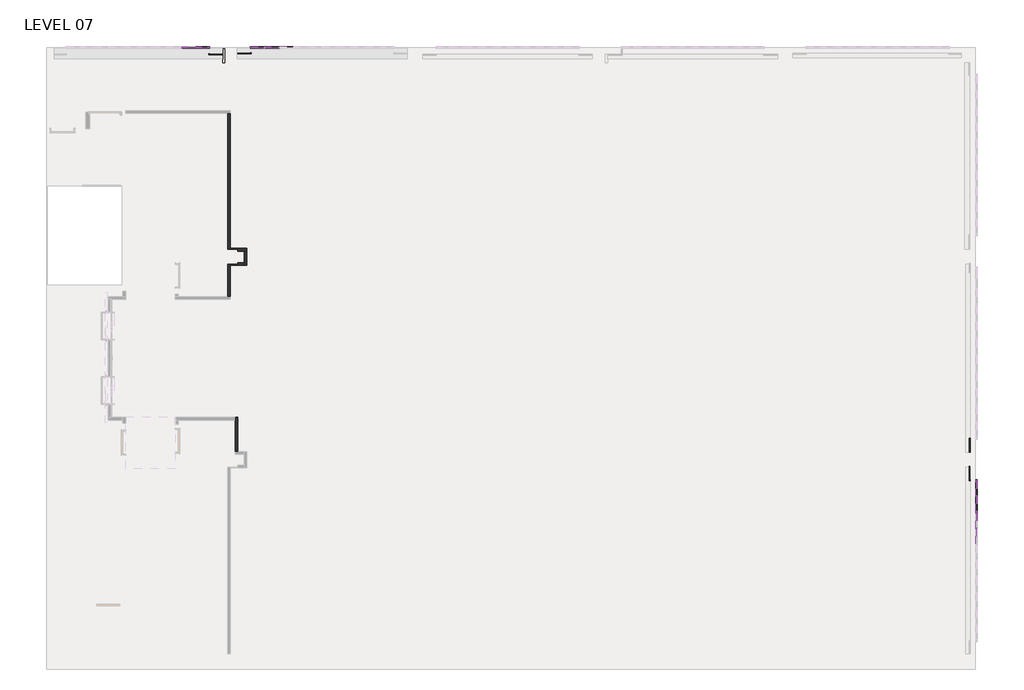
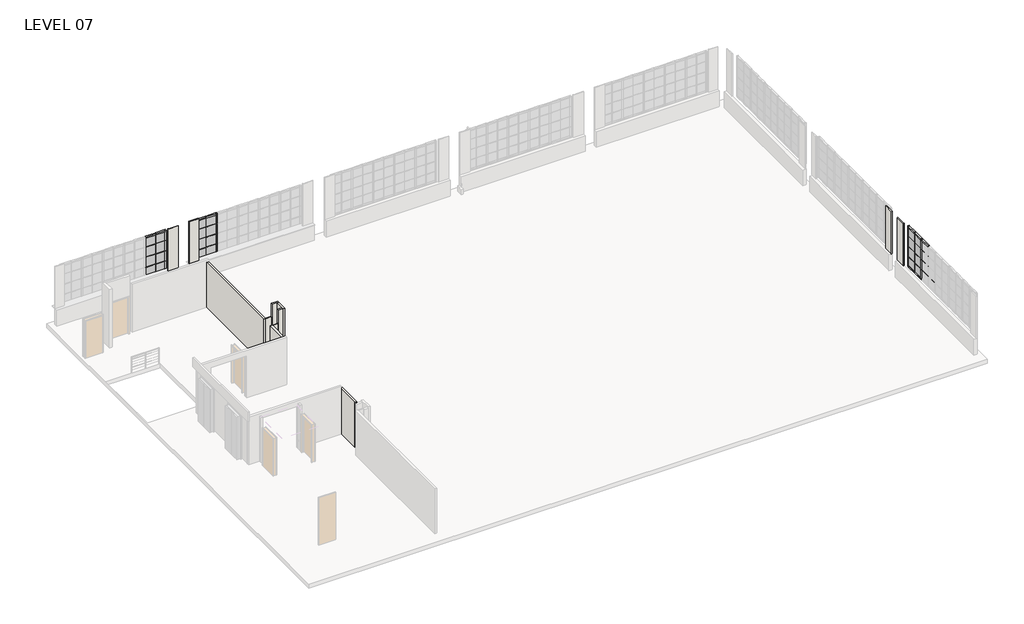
# One storey, part 8 of 15: 67 members, 24 plates, 16 walls.
"""IFC4 building model written with IfcOpenShell, lengths in millimetres."""

from ifc_helpers import new_model, si_unit, frame, origin, place, context, project, spatial, polyline, outline, extrude, faceted_brep, transform, mapped, element, save
from components import member_78bb2ef1, member_bfca4c7d, member_0337d645, member_d9fe2114, member_fd592df6, member_378e0c06, member_17eb62f4, member_d1b01063, member_a415275a, member_ba51e770, member_6e5aab5d, member_bacafba3, member_a6d649dc, system_panel_glazed_fe6fc7be, system_panel_glazed_a8cc2c5f, system_panel_glazed_92f702fb, system_panel_glazed_d94367f6, system_panel_glazed_84a10c8e, system_panel_glazed_44697018, system_panel_glazed_99b9b709, system_panel_glazed_bf1454fd

model = new_model("IFC4")

# Units and contexts
model_context = context("Model", 3, world=origin())
ifc_project = project(units=[si_unit("LENGTHUNIT", "METRE", prefix="MILLI")], contexts=[model_context])

# Site, building, storey
site = spatial("IfcSite", under=ifc_project)
building = spatial("IfcBuilding", under=site)
storey = spatial("IfcBuildingStorey", under=building, Name="LEVEL 07", Elevation=20802.6)

# Members
placement = place(None, origin())
member_shape = member_78bb2ef1(model_context)
element("IfcMember", 1, ObjectType="Rectangular Mullion : 1\" x 1\" - Butt Joint", at=placement, inside=storey, context=model_context, shape_type="MappedRepresentation", body=[
    mapped(member_shape, transform((-445.6849596, -19536.0372314, 23342.6), x_axis=(0.0, 1.0, 0.0), y_axis=(1.0, 0.0, 0.0), z_axis=(0.0, 0.0, -1.0))),
])
element("IfcMember", 2, ObjectType="Rectangular Mullion : 1\" x 1\" - Butt Joint", at=placement, inside=storey, context=model_context, shape_type="MappedRepresentation", body=[
    mapped(member_shape, transform((-445.6849596, -18245.7172314, 23342.6), x_axis=(0.0, 1.0, 0.0), y_axis=(1.0, 0.0, 0.0), z_axis=(0.0, 0.0, -1.0))),
])
element("IfcMember", 3, ObjectType="Rectangular Mullion : 1\" x 1\" - Butt Joint", at=placement, inside=storey, context=model_context, shape_type="MappedRepresentation", body=[
    mapped(member_shape, transform((-445.6849596, -19536.0372314, 22174.2), x_axis=(0.0, 1.0, 0.0), y_axis=(1.0, 0.0, 0.0), z_axis=(0.0, 0.0, -1.0))),
])
element("IfcMember", 4, ObjectType="Rectangular Mullion : 1\" x 1\" - Butt Joint", at=placement, inside=storey, context=model_context, shape_type="MappedRepresentation", body=[
    mapped(member_shape, transform((-445.6849596, -19536.0372314, 22758.4), x_axis=(0.0, 1.0, 0.0), y_axis=(1.0, 0.0, 0.0), z_axis=(0.0, 0.0, -1.0))),
])
element("IfcMember", 5, ObjectType="Rectangular Mullion : 1\" x 1\" - Butt Joint", at=placement, inside=storey, context=model_context, shape_type="MappedRepresentation", body=[
    mapped(member_shape, transform((-445.6849596, -18245.7172314, 22174.2), x_axis=(0.0, 1.0, 0.0), y_axis=(1.0, 0.0, 0.0), z_axis=(0.0, 0.0, -1.0))),
])
element("IfcMember", 6, ObjectType="Rectangular Mullion : 1\" x 1\" - Butt Joint", at=placement, inside=storey, context=model_context, shape_type="MappedRepresentation", body=[
    mapped(member_shape, transform((-445.6849596, -18245.7172314, 22758.4), x_axis=(0.0, 1.0, 0.0), y_axis=(1.0, 0.0, 0.0), z_axis=(0.0, 0.0, -1.0))),
])
element("IfcMember", 7, ObjectType="Rectangular Mullion : 1\" x 1\" - Butt Joint", at=placement, inside=storey, context=model_context, shape_type="MappedRepresentation", body=[
    mapped(member_shape, transform((-445.6849596, -19536.0372314, 21590.0), x_axis=(0.0, 1.0, 0.0), y_axis=(1.0, 0.0, 0.0), z_axis=(0.0, 0.0, -1.0))),
])
element("IfcMember", 8, ObjectType="Rectangular Mullion : 1\" x 1\" - Butt Joint", at=placement, inside=storey, context=model_context, shape_type="MappedRepresentation", body=[
    mapped(member_shape, transform((-445.6849596, -18245.7172314, 21590.0), x_axis=(0.0, 1.0, 0.0), y_axis=(1.0, 0.0, 0.0), z_axis=(0.0, 0.0, -1.0))),
])
member_2_shape = member_bfca4c7d(model_context)
element("IfcMember", 9, ObjectType="Rectangular Mullion : 1\" x 1\" - Butt Joint", at=placement, inside=storey, context=model_context, shape_type="MappedRepresentation", body=[
    mapped(member_2_shape, transform((-445.6849596, -18928.9772314, 23342.6), x_axis=(0.0, 0.0, 1.0), y_axis=(1.0, 0.0, 0.0), z_axis=(0.0, 1.0, 0.0))),
])
element("IfcMember", 10, ObjectType="Rectangular Mullion : 1\" x 1\" - Butt Joint", at=placement, inside=storey, context=model_context, shape_type="MappedRepresentation", body=[
    mapped(member_2_shape, transform((-445.6849596, -18258.4172314, 23342.6), x_axis=(0.0, 0.0, 1.0), y_axis=(1.0, 0.0, 0.0), z_axis=(0.0, 1.0, 0.0))),
])
element("IfcMember", 11, ObjectType="Rectangular Mullion : 1\" x 1\" - Butt Joint", at=placement, inside=storey, context=model_context, shape_type="MappedRepresentation", body=[
    mapped(member_2_shape, transform((-445.6849596, -18928.9772314, 22758.4), x_axis=(0.0, 0.0, 1.0), y_axis=(1.0, 0.0, 0.0), z_axis=(0.0, 1.0, 0.0))),
])
element("IfcMember", 12, ObjectType="Rectangular Mullion : 1\" x 1\" - Butt Joint", at=placement, inside=storey, context=model_context, shape_type="MappedRepresentation", body=[
    mapped(member_2_shape, transform((-445.6849596, -18258.4172314, 22758.4), x_axis=(0.0, 0.0, 1.0), y_axis=(1.0, 0.0, 0.0), z_axis=(0.0, 1.0, 0.0))),
])
element("IfcMember", 13, ObjectType="Rectangular Mullion : 1\" x 1\" - Butt Joint", at=placement, inside=storey, context=model_context, shape_type="MappedRepresentation", body=[
    mapped(member_2_shape, transform((-445.6849596, -18928.9772314, 22174.2), x_axis=(0.0, 0.0, 1.0), y_axis=(1.0, 0.0, 0.0), z_axis=(0.0, 1.0, 0.0))),
])
element("IfcMember", 14, ObjectType="Rectangular Mullion : 1\" x 1\" - Butt Joint", at=placement, inside=storey, context=model_context, shape_type="MappedRepresentation", body=[
    mapped(member_2_shape, transform((-445.6849596, -18258.4172314, 22174.2), x_axis=(0.0, 0.0, 1.0), y_axis=(1.0, 0.0, 0.0), z_axis=(0.0, 1.0, 0.0))),
])
element("IfcMember", 15, ObjectType="Rectangular Mullion : 1\" x 1\" - Butt Joint", at=placement, inside=storey, context=model_context, shape_type="MappedRepresentation", body=[
    mapped(member_2_shape, transform((-445.6849596, -19548.7372314, 22174.2), x_axis=(0.0, 0.0, 1.0), y_axis=(1.0, 0.0, 0.0), z_axis=(0.0, 1.0, 0.0))),
])
member_3_shape = member_0337d645(model_context)
element("IfcMember", 16, ObjectType="Rectangular Mullion : 1\" x 1\" - Butt Joint", at=placement, inside=storey, context=model_context, shape_type="MappedRepresentation", body=[
    mapped(member_3_shape, transform((-445.6849596, -17676.7572314, 23342.6), x_axis=(0.0, 0.0, 1.0), y_axis=(1.0, 0.0, 0.0), z_axis=(0.0, 1.0, 0.0))),
])
element("IfcMember", 17, ObjectType="Rectangular Mullion : 1\" x 1\" - Butt Joint", at=placement, inside=storey, context=model_context, shape_type="MappedRepresentation", body=[
    mapped(member_3_shape, transform((-445.6849596, -17676.7572314, 22758.4), x_axis=(0.0, 0.0, 1.0), y_axis=(1.0, 0.0, 0.0), z_axis=(0.0, 1.0, 0.0))),
])
element("IfcMember", 18, ObjectType="Rectangular Mullion : 1\" x 1\" - Butt Joint", at=placement, inside=storey, context=model_context, shape_type="MappedRepresentation", body=[
    mapped(member_3_shape, transform((-445.6849596, -17676.7572314, 22174.2), x_axis=(0.0, 0.0, 1.0), y_axis=(1.0, 0.0, 0.0), z_axis=(0.0, 1.0, 0.0))),
])
member_4_shape = member_d9fe2114(model_context)
element("IfcMember", 19, ObjectType="Rectangular Mullion : 1\" x 1\" - Butt Joint", at=placement, inside=storey, context=model_context, shape_type="MappedRepresentation", body=[
    mapped(member_4_shape, transform((-28228.7321217, -412.75, 23342.6), x_axis=(0.0, 0.0, 1.0), y_axis=(0.0, -1.0, 0.0), z_axis=(1.0, 0.0, 0.0))),
])
element("IfcMember", 20, ObjectType="Rectangular Mullion : 1\" x 1\" - Butt Joint", at=placement, inside=storey, context=model_context, shape_type="MappedRepresentation", body=[
    mapped(member_4_shape, transform((-28228.7321217, -412.75, 22758.4), x_axis=(0.0, 0.0, 1.0), y_axis=(0.0, -1.0, 0.0), z_axis=(1.0, 0.0, 0.0))),
])
element("IfcMember", 21, ObjectType="Rectangular Mullion : 1\" x 1\" - Butt Joint", at=placement, inside=storey, context=model_context, shape_type="MappedRepresentation", body=[
    mapped(member_4_shape, transform((-28228.7321217, -412.75, 22174.2), x_axis=(0.0, 0.0, 1.0), y_axis=(0.0, -1.0, 0.0), z_axis=(1.0, 0.0, 0.0))),
])
element("IfcMember", 22, ObjectType="Rectangular Mullion : 1\" x 1\" - Butt Joint", at=placement, inside=storey, context=model_context, shape_type="MappedRepresentation", body=[
    mapped(member_4_shape, transform((-31532.5110374, -412.75, 23342.6), x_axis=(0.0, 0.0, 1.0), y_axis=(0.0, -1.0, 0.0), z_axis=(1.0, 0.0, 0.0))),
])
element("IfcMember", 23, ObjectType="Rectangular Mullion : 1\" x 1\" - Butt Joint", at=placement, inside=storey, context=model_context, shape_type="MappedRepresentation", body=[
    mapped(member_4_shape, transform((-31532.5110374, -412.75, 22758.4), x_axis=(0.0, 0.0, 1.0), y_axis=(0.0, -1.0, 0.0), z_axis=(1.0, 0.0, 0.0))),
])
element("IfcMember", 24, ObjectType="Rectangular Mullion : 1\" x 1\" - Butt Joint", at=placement, inside=storey, context=model_context, shape_type="MappedRepresentation", body=[
    mapped(member_4_shape, transform((-31532.5110374, -412.75, 22174.2), x_axis=(0.0, 0.0, 1.0), y_axis=(0.0, -1.0, 0.0), z_axis=(1.0, 0.0, 0.0))),
])
member_5_shape = member_fd592df6(model_context)
element("IfcMember", 25, ObjectType="Rectangular Mullion : 1\" x 1\" - Butt Joint", at=placement, inside=storey, context=model_context, shape_type="MappedRepresentation", body=[
    mapped(member_5_shape, transform((-28777.3721217, -412.75, 23342.6), x_axis=(0.0, 0.0, 1.0), y_axis=(0.0, -1.0, 0.0), z_axis=(1.0, 0.0, 0.0))),
])
element("IfcMember", 26, ObjectType="Rectangular Mullion : 1\" x 1\" - Butt Joint", at=placement, inside=storey, context=model_context, shape_type="MappedRepresentation", body=[
    mapped(member_5_shape, transform((-28777.3721217, -412.75, 22758.4), x_axis=(0.0, 0.0, 1.0), y_axis=(0.0, -1.0, 0.0), z_axis=(1.0, 0.0, 0.0))),
])
element("IfcMember", 27, ObjectType="Rectangular Mullion : 1\" x 1\" - Butt Joint", at=placement, inside=storey, context=model_context, shape_type="MappedRepresentation", body=[
    mapped(member_5_shape, transform((-28777.3721217, -412.75, 22174.2), x_axis=(0.0, 0.0, 1.0), y_axis=(0.0, -1.0, 0.0), z_axis=(1.0, 0.0, 0.0))),
])
element("IfcMember", 28, ObjectType="Rectangular Mullion : 1\" x 1\" - Butt Joint", at=placement, inside=storey, context=model_context, shape_type="MappedRepresentation", body=[
    mapped(member_5_shape, transform((-31021.9710374, -412.75, 23342.6), x_axis=(0.0, 0.0, 1.0), y_axis=(0.0, -1.0, 0.0), z_axis=(1.0, 0.0, 0.0))),
])
element("IfcMember", 29, ObjectType="Rectangular Mullion : 1\" x 1\" - Butt Joint", at=placement, inside=storey, context=model_context, shape_type="MappedRepresentation", body=[
    mapped(member_5_shape, transform((-31021.9710374, -412.75, 22758.4), x_axis=(0.0, 0.0, 1.0), y_axis=(0.0, -1.0, 0.0), z_axis=(1.0, 0.0, 0.0))),
])
element("IfcMember", 30, ObjectType="Rectangular Mullion : 1\" x 1\" - Butt Joint", at=placement, inside=storey, context=model_context, shape_type="MappedRepresentation", body=[
    mapped(member_5_shape, transform((-31021.9710374, -412.75, 22174.2), x_axis=(0.0, 0.0, 1.0), y_axis=(0.0, -1.0, 0.0), z_axis=(1.0, 0.0, 0.0))),
])
element("IfcMember", 31, ObjectType="Rectangular Mullion : 1\" x 1\" - Butt Joint", at=placement, inside=storey, context=model_context, shape_type="MappedRepresentation", body=[
    mapped(member_shape, transform((-31519.8110374, -412.75, 23342.6), x_axis=(1.0, 0.0, 0.0), y_axis=(0.0, -1.0, 0.0), z_axis=(0.0, 0.0, -1.0))),
])
element("IfcMember", 32, ObjectType="Rectangular Mullion : 1\" x 1\" - Butt Joint", at=placement, inside=storey, context=model_context, shape_type="MappedRepresentation", body=[
    mapped(member_shape, transform((-31519.8110374, -412.75, 22174.2), x_axis=(1.0, 0.0, 0.0), y_axis=(0.0, -1.0, 0.0), z_axis=(0.0, 0.0, -1.0))),
])
element("IfcMember", 33, ObjectType="Rectangular Mullion : 1\" x 1\" - Butt Joint", at=placement, inside=storey, context=model_context, shape_type="MappedRepresentation", body=[
    mapped(member_shape, transform((-31519.8110374, -412.75, 22758.4), x_axis=(1.0, 0.0, 0.0), y_axis=(0.0, -1.0, 0.0), z_axis=(0.0, 0.0, -1.0))),
])
element("IfcMember", 34, ObjectType="Rectangular Mullion : 1\" x 1\" - Butt Joint", at=placement, inside=storey, context=model_context, shape_type="MappedRepresentation", body=[
    mapped(member_shape, transform((-31519.8110374, -412.75, 21590.0), x_axis=(1.0, 0.0, 0.0), y_axis=(0.0, -1.0, 0.0), z_axis=(0.0, 0.0, -1.0))),
])
member_6_shape = member_378e0c06(model_context)
element("IfcMember", 35, ObjectType="Rectangular Mullion : 3\" x 3\" Window Jamb", at=placement, inside=storey, context=model_context, shape_type="MappedRepresentation", body=[
    mapped(member_6_shape, transform((-445.6849596, -18890.8772314, 23342.6), x_axis=(0.0, 1.0, 0.0), y_axis=(1.0, 0.0, 0.0), z_axis=(0.0, 0.0, -1.0))),
])
member_7_shape = member_17eb62f4(model_context)
element("IfcMember", 36, ObjectType="Rectangular Mullion : 3\" x 3\" Window Jamb", at=placement, inside=storey, context=model_context, shape_type="MappedRepresentation", body=[
    mapped(member_7_shape, transform((-445.6849596, -17600.5572314, 23342.6), x_axis=(0.0, 1.0, 0.0), y_axis=(1.0, 0.0, 0.0), z_axis=(0.0, 0.0, -1.0))),
])
element("IfcMember", 37, ObjectType="Rectangular Mullion : 3\" x 3\" Window Jamb", at=placement, inside=storey, context=model_context, shape_type="MappedRepresentation", body=[
    mapped(member_6_shape, transform((-445.6849596, -18890.8772314, 22174.2), x_axis=(0.0, 1.0, 0.0), y_axis=(1.0, 0.0, 0.0), z_axis=(0.0, 0.0, -1.0))),
])
element("IfcMember", 38, ObjectType="Rectangular Mullion : 3\" x 3\" Window Jamb", at=placement, inside=storey, context=model_context, shape_type="MappedRepresentation", body=[
    mapped(member_6_shape, transform((-445.6849596, -18890.8772314, 22758.4), x_axis=(0.0, 1.0, 0.0), y_axis=(1.0, 0.0, 0.0), z_axis=(0.0, 0.0, -1.0))),
])
element("IfcMember", 39, ObjectType="Rectangular Mullion : 3\" x 3\" Window Jamb", at=placement, inside=storey, context=model_context, shape_type="MappedRepresentation", body=[
    mapped(member_7_shape, transform((-445.6849596, -17600.5572314, 22174.2), x_axis=(0.0, 1.0, 0.0), y_axis=(1.0, 0.0, 0.0), z_axis=(0.0, 0.0, -1.0))),
])
element("IfcMember", 40, ObjectType="Rectangular Mullion : 3\" x 3\" Window Jamb", at=placement, inside=storey, context=model_context, shape_type="MappedRepresentation", body=[
    mapped(member_7_shape, transform((-445.6849596, -17600.5572314, 22758.4), x_axis=(0.0, 1.0, 0.0), y_axis=(1.0, 0.0, 0.0), z_axis=(0.0, 0.0, -1.0))),
])
element("IfcMember", 41, ObjectType="Rectangular Mullion : 3\" x 3\" Window Jamb", at=placement, inside=storey, context=model_context, shape_type="MappedRepresentation", body=[
    mapped(member_6_shape, transform((-445.6849596, -18890.8772314, 21590.0), x_axis=(0.0, 1.0, 0.0), y_axis=(1.0, 0.0, 0.0), z_axis=(0.0, 0.0, -1.0))),
])
element("IfcMember", 42, ObjectType="Rectangular Mullion : 3\" x 3\" Window Jamb", at=placement, inside=storey, context=model_context, shape_type="MappedRepresentation", body=[
    mapped(member_7_shape, transform((-445.6849596, -17600.5572314, 21590.0), x_axis=(0.0, 1.0, 0.0), y_axis=(1.0, 0.0, 0.0), z_axis=(0.0, 0.0, -1.0))),
])
member_8_shape = member_d1b01063(model_context)
element("IfcMember", 43, ObjectType="Rectangular Mullion : 3\" x 3\" Window Jamb", at=placement, inside=storey, context=model_context, shape_type="MappedRepresentation", body=[
    mapped(member_8_shape, transform((-445.6849596, -17676.7572314, 23926.8), x_axis=(0.0, 0.0, 1.0), y_axis=(1.0, 0.0, 0.0), z_axis=(0.0, 1.0, 0.0))),
])
member_9_shape = member_a415275a(model_context)
element("IfcMember", 44, ObjectType="Rectangular Mullion : 3\" x 3\" Window Jamb", at=placement, inside=storey, context=model_context, shape_type="MappedRepresentation", body=[
    mapped(member_9_shape, transform((-445.6849596, -18258.4172314, 23926.8), x_axis=(0.0, 0.0, 1.0), y_axis=(1.0, 0.0, 0.0), z_axis=(0.0, 1.0, 0.0))),
])
element("IfcMember", 45, ObjectType="Rectangular Mullion : 3\" x 3\" Window Jamb", at=placement, inside=storey, context=model_context, shape_type="MappedRepresentation", body=[
    mapped(member_9_shape, transform((-445.6849596, -18928.9772314, 23926.8), x_axis=(0.0, 0.0, 1.0), y_axis=(1.0, 0.0, 0.0), z_axis=(0.0, 1.0, 0.0))),
])
element("IfcMember", 46, ObjectType="Rectangular Mullion : 3\" x 3\" Window Jamb", at=placement, inside=storey, context=model_context, shape_type="MappedRepresentation", body=[
    mapped(member_9_shape, transform((-445.6849596, -18852.7772314, 21590.0), x_axis=(0.0, 0.0, -1.0), y_axis=(1.0, 0.0, 0.0), z_axis=(0.0, -1.0, 0.0))),
])
element("IfcMember", 47, ObjectType="Rectangular Mullion : 3\" x 3\" Window Jamb", at=placement, inside=storey, context=model_context, shape_type="MappedRepresentation", body=[
    mapped(member_8_shape, transform((-445.6849596, -18233.0172314, 21590.0), x_axis=(0.0, 0.0, -1.0), y_axis=(1.0, 0.0, 0.0), z_axis=(0.0, -1.0, 0.0))),
])
member_10_shape = member_ba51e770(model_context)
element("IfcMember", 48, ObjectType="Rectangular Mullion : 3\" x 3\" Window Jamb", at=placement, inside=storey, context=model_context, shape_type="MappedRepresentation", body=[
    mapped(member_10_shape, transform((-28777.3721217, -412.75, 23926.8), x_axis=(0.0, 0.0, 1.0), y_axis=(0.0, -1.0, 0.0), z_axis=(1.0, 0.0, 0.0))),
])
element("IfcMember", 49, ObjectType="Rectangular Mullion : 3\" x 3\" Window Jamb", at=placement, inside=storey, context=model_context, shape_type="MappedRepresentation", body=[
    mapped(member_10_shape, transform((-31021.9710374, -412.75, 23926.8), x_axis=(0.0, 0.0, 1.0), y_axis=(0.0, -1.0, 0.0), z_axis=(1.0, 0.0, 0.0))),
])
member_11_shape = member_6e5aab5d(model_context)
element("IfcMember", 50, ObjectType="Rectangular Mullion : 3\" x 3\" Window Jamb", at=placement, inside=storey, context=model_context, shape_type="MappedRepresentation", body=[
    mapped(member_11_shape, transform((-28228.7321217, -412.75, 23926.8), x_axis=(0.0, 0.0, 1.0), y_axis=(0.0, -1.0, 0.0), z_axis=(1.0, 0.0, 0.0))),
])
element("IfcMember", 51, ObjectType="Rectangular Mullion : 3\" x 3\" Window Jamb", at=placement, inside=storey, context=model_context, shape_type="MappedRepresentation", body=[
    mapped(member_11_shape, transform((-31532.5110374, -412.75, 23926.8), x_axis=(0.0, 0.0, 1.0), y_axis=(0.0, -1.0, 0.0), z_axis=(1.0, 0.0, 0.0))),
])
element("IfcMember", 52, ObjectType="Rectangular Mullion : 3\" x 3\" Window Jamb", at=placement, inside=storey, context=model_context, shape_type="MappedRepresentation", body=[
    mapped(member_11_shape, transform((-28751.9721217, -412.75, 21590.0), x_axis=(0.0, 0.0, -1.0), y_axis=(0.0, -1.0, 0.0), z_axis=(-1.0, 0.0, 0.0))),
])
element("IfcMember", 53, ObjectType="Rectangular Mullion : 3\" x 3\" Window Jamb", at=placement, inside=storey, context=model_context, shape_type="MappedRepresentation", body=[
    mapped(member_11_shape, transform((-28152.5321217, -412.75, 21590.0), x_axis=(0.0, 0.0, -1.0), y_axis=(0.0, -1.0, 0.0), z_axis=(-1.0, 0.0, 0.0))),
])
element("IfcMember", 54, ObjectType="Rectangular Mullion : 3\" x 3\" Window Jamb", at=placement, inside=storey, context=model_context, shape_type="MappedRepresentation", body=[
    mapped(member_10_shape, transform((-29262.5121217, -412.75, 21590.0), x_axis=(0.0, 0.0, -1.0), y_axis=(0.0, -1.0, 0.0), z_axis=(-1.0, 0.0, 0.0))),
])
element("IfcMember", 55, ObjectType="Rectangular Mullion : 3\" x 3\" Window Jamb", at=placement, inside=storey, context=model_context, shape_type="MappedRepresentation", body=[
    mapped(member_10_shape, transform((-31507.1110374, -412.75, 21590.0), x_axis=(0.0, 0.0, -1.0), y_axis=(0.0, -1.0, 0.0), z_axis=(-1.0, 0.0, 0.0))),
])
member_12_shape = member_bacafba3(model_context)
element("IfcMember", 56, ObjectType="Rectangular Mullion : 3\" x 3\" Window Jamb", at=placement, inside=storey, context=model_context, shape_type="MappedRepresentation", body=[
    mapped(member_12_shape, transform((-28190.6321217, -412.75, 23342.6), x_axis=(1.0, 0.0, 0.0), y_axis=(0.0, -1.0, 0.0), z_axis=(0.0, 0.0, -1.0))),
])
element("IfcMember", 57, ObjectType="Rectangular Mullion : 3\" x 3\" Window Jamb", at=placement, inside=storey, context=model_context, shape_type="MappedRepresentation", body=[
    mapped(member_12_shape, transform((-28190.6321217, -412.75, 22174.2), x_axis=(1.0, 0.0, 0.0), y_axis=(0.0, -1.0, 0.0), z_axis=(0.0, 0.0, -1.0))),
])
element("IfcMember", 58, ObjectType="Rectangular Mullion : 3\" x 3\" Window Jamb", at=placement, inside=storey, context=model_context, shape_type="MappedRepresentation", body=[
    mapped(member_12_shape, transform((-28190.6321217, -412.75, 22758.4), x_axis=(1.0, 0.0, 0.0), y_axis=(0.0, -1.0, 0.0), z_axis=(0.0, 0.0, -1.0))),
])
element("IfcMember", 59, ObjectType="Rectangular Mullion : 3\" x 3\" Window Jamb", at=placement, inside=storey, context=model_context, shape_type="MappedRepresentation", body=[
    mapped(member_12_shape, transform((-28190.6321217, -412.75, 21590.0), x_axis=(1.0, 0.0, 0.0), y_axis=(0.0, -1.0, 0.0), z_axis=(0.0, 0.0, -1.0))),
])
member_13_shape = member_a6d649dc(model_context)
element("IfcMember", 60, ObjectType="Rectangular Mullion : 3\" x 3\" Window Jamb", at=placement, inside=storey, context=model_context, shape_type="MappedRepresentation", body=[
    mapped(member_13_shape, transform((-30945.7710374, -412.75, 23342.6), x_axis=(1.0, 0.0, 0.0), y_axis=(0.0, -1.0, 0.0), z_axis=(0.0, 0.0, -1.0))),
])
element("IfcMember", 61, ObjectType="Rectangular Mullion : 3\" x 3\" Window Jamb", at=placement, inside=storey, context=model_context, shape_type="MappedRepresentation", body=[
    mapped(member_13_shape, transform((-30945.7710374, -412.75, 22174.2), x_axis=(1.0, 0.0, 0.0), y_axis=(0.0, -1.0, 0.0), z_axis=(0.0, 0.0, -1.0))),
])
element("IfcMember", 62, ObjectType="Rectangular Mullion : 3\" x 3\" Window Jamb", at=placement, inside=storey, context=model_context, shape_type="MappedRepresentation", body=[
    mapped(member_13_shape, transform((-30945.7710374, -412.75, 22758.4), x_axis=(1.0, 0.0, 0.0), y_axis=(0.0, -1.0, 0.0), z_axis=(0.0, 0.0, -1.0))),
])
element("IfcMember", 63, ObjectType="Rectangular Mullion : 3\" x 3\" Window Jamb", at=placement, inside=storey, context=model_context, shape_type="MappedRepresentation", body=[
    mapped(member_13_shape, transform((-30945.7710374, -412.75, 21590.0), x_axis=(1.0, 0.0, 0.0), y_axis=(0.0, -1.0, 0.0), z_axis=(0.0, 0.0, -1.0))),
])
element("IfcMember", 64, ObjectType="Rectangular Mullion : 3\" x 3\" Window Jamb", at=placement, inside=storey, context=model_context, shape_type="MappedRepresentation", body=[
    mapped(member_13_shape, transform((-29338.7121217, -412.75, 23342.6), x_axis=(-1.0, 0.0, 0.0), y_axis=(0.0, -1.0, 0.0), z_axis=(0.0, 0.0, 1.0))),
])
element("IfcMember", 65, ObjectType="Rectangular Mullion : 3\" x 3\" Window Jamb", at=placement, inside=storey, context=model_context, shape_type="MappedRepresentation", body=[
    mapped(member_13_shape, transform((-29338.7121217, -412.75, 22758.4), x_axis=(-1.0, 0.0, 0.0), y_axis=(0.0, -1.0, 0.0), z_axis=(0.0, 0.0, 1.0))),
])
element("IfcMember", 66, ObjectType="Rectangular Mullion : 3\" x 3\" Window Jamb", at=placement, inside=storey, context=model_context, shape_type="MappedRepresentation", body=[
    mapped(member_13_shape, transform((-29338.7121217, -412.75, 22174.2), x_axis=(-1.0, 0.0, 0.0), y_axis=(0.0, -1.0, 0.0), z_axis=(0.0, 0.0, 1.0))),
])
element("IfcMember", 67, ObjectType="Rectangular Mullion : 3\" x 3\" Window Jamb", at=placement, inside=storey, context=model_context, shape_type="MappedRepresentation", body=[
    mapped(member_13_shape, transform((-29338.7121217, -412.75, 23926.8), x_axis=(-1.0, 0.0, 0.0), y_axis=(0.0, -1.0, 0.0), z_axis=(0.0, 0.0, 1.0))),
])

# Plates
system_panel_glazed_shape = system_panel_glazed_fe6fc7be(model_context)
element("IfcPlate", 68, ObjectType="System Panel : Glazed", at=placement, inside=storey, context=model_context, shape_type="MappedRepresentation", body=[
    mapped(system_panel_glazed_shape, transform((-445.6849596, -17954.8872314, 21666.2), x_axis=(0.0, 1.0, 0.0), y_axis=(-1.0, 0.0, 0.0), z_axis=(0.0, 0.0, 1.0))),
])
element("IfcPlate", 69, ObjectType="System Panel : Glazed", at=placement, inside=storey, context=model_context, shape_type="MappedRepresentation", body=[
    mapped(system_panel_glazed_shape, transform((-445.6849596, -17954.8872314, 23355.3), x_axis=(0.0, 1.0, 0.0), y_axis=(-1.0, 0.0, 0.0), z_axis=(0.0, 0.0, 1.0))),
])
system_panel_glazed_2_shape = system_panel_glazed_a8cc2c5f(model_context)
element("IfcPlate", 70, ObjectType="System Panel : Glazed", at=placement, inside=storey, context=model_context, shape_type="MappedRepresentation", body=[
    mapped(system_panel_glazed_2_shape, transform((-445.6849596, -18555.5972314, 21666.2), x_axis=(0.0, 1.0, 0.0), y_axis=(-1.0, 0.0, 0.0), z_axis=(0.0, 0.0, 1.0))),
])
element("IfcPlate", 71, ObjectType="System Panel : Glazed", at=placement, inside=storey, context=model_context, shape_type="MappedRepresentation", body=[
    mapped(system_panel_glazed_2_shape, transform((-445.6849596, -18555.5972314, 23355.3), x_axis=(0.0, 1.0, 0.0), y_axis=(-1.0, 0.0, 0.0), z_axis=(0.0, 0.0, 1.0))),
])
system_panel_glazed_3_shape = system_panel_glazed_92f702fb(model_context)
element("IfcPlate", 72, ObjectType="System Panel : Glazed", at=placement, inside=storey, context=model_context, shape_type="MappedRepresentation", body=[
    mapped(system_panel_glazed_3_shape, transform((-445.6849596, -17954.8872314, 22186.9), x_axis=(0.0, 1.0, 0.0), y_axis=(-1.0, 0.0, 0.0), z_axis=(0.0, 0.0, 1.0))),
])
element("IfcPlate", 73, ObjectType="System Panel : Glazed", at=placement, inside=storey, context=model_context, shape_type="MappedRepresentation", body=[
    mapped(system_panel_glazed_3_shape, transform((-445.6849596, -17954.8872314, 22771.1), x_axis=(0.0, 1.0, 0.0), y_axis=(-1.0, 0.0, 0.0), z_axis=(0.0, 0.0, 1.0))),
])
system_panel_glazed_4_shape = system_panel_glazed_d94367f6(model_context)
element("IfcPlate", 74, ObjectType="System Panel : Glazed", at=placement, inside=storey, context=model_context, shape_type="MappedRepresentation", body=[
    mapped(system_panel_glazed_4_shape, transform((-445.6849596, -18555.5972314, 22771.1), x_axis=(0.0, 1.0, 0.0), y_axis=(-1.0, 0.0, 0.0), z_axis=(0.0, 0.0, 1.0))),
])
element("IfcPlate", 75, ObjectType="System Panel : Glazed", at=placement, inside=storey, context=model_context, shape_type="MappedRepresentation", body=[
    mapped(system_panel_glazed_4_shape, transform((-445.6849596, -18555.5972314, 22186.9), x_axis=(0.0, 1.0, 0.0), y_axis=(-1.0, 0.0, 0.0), z_axis=(0.0, 0.0, 1.0))),
])
system_panel_glazed_5_shape = system_panel_glazed_84a10c8e(model_context)
element("IfcPlate", 76, ObjectType="System Panel : Glazed", at=placement, inside=storey, context=model_context, shape_type="MappedRepresentation", body=[
    mapped(system_panel_glazed_5_shape, transform((-29019.9421217, -412.75, 21666.2), x_axis=(1.0, 0.0, 0.0), y_axis=(0.0, 1.0, 0.0), z_axis=(0.0, 0.0, 1.0))),
])
element("IfcPlate", 77, ObjectType="System Panel : Glazed", at=placement, inside=storey, context=model_context, shape_type="MappedRepresentation", body=[
    mapped(system_panel_glazed_5_shape, transform((-29019.9421217, -412.75, 23355.3), x_axis=(1.0, 0.0, 0.0), y_axis=(0.0, 1.0, 0.0), z_axis=(0.0, 0.0, 1.0))),
])
element("IfcPlate", 78, ObjectType="System Panel : Glazed", at=placement, inside=storey, context=model_context, shape_type="MappedRepresentation", body=[
    mapped(system_panel_glazed_5_shape, transform((-31264.5410374, -412.75, 21666.2), x_axis=(1.0, 0.0, 0.0), y_axis=(0.0, 1.0, 0.0), z_axis=(0.0, 0.0, 1.0))),
])
element("IfcPlate", 79, ObjectType="System Panel : Glazed", at=placement, inside=storey, context=model_context, shape_type="MappedRepresentation", body=[
    mapped(system_panel_glazed_5_shape, transform((-31264.5410374, -412.75, 23355.3), x_axis=(1.0, 0.0, 0.0), y_axis=(0.0, 1.0, 0.0), z_axis=(0.0, 0.0, 1.0))),
])
system_panel_glazed_6_shape = system_panel_glazed_44697018(model_context)
element("IfcPlate", 80, ObjectType="System Panel : Glazed", at=placement, inside=storey, context=model_context, shape_type="MappedRepresentation", body=[
    mapped(system_panel_glazed_6_shape, transform((-28490.3521217, -412.75, 21666.2), x_axis=(1.0, 0.0, 0.0), y_axis=(0.0, 1.0, 0.0), z_axis=(0.0, 0.0, 1.0))),
])
element("IfcPlate", 81, ObjectType="System Panel : Glazed", at=placement, inside=storey, context=model_context, shape_type="MappedRepresentation", body=[
    mapped(system_panel_glazed_6_shape, transform((-28490.3521217, -412.75, 23355.3), x_axis=(1.0, 0.0, 0.0), y_axis=(0.0, 1.0, 0.0), z_axis=(0.0, 0.0, 1.0))),
])
element("IfcPlate", 82, ObjectType="System Panel : Glazed", at=placement, inside=storey, context=model_context, shape_type="MappedRepresentation", body=[
    mapped(system_panel_glazed_6_shape, transform((-31794.1310374, -412.75, 21666.2), x_axis=(1.0, 0.0, 0.0), y_axis=(0.0, 1.0, 0.0), z_axis=(0.0, 0.0, 1.0))),
])
element("IfcPlate", 83, ObjectType="System Panel : Glazed", at=placement, inside=storey, context=model_context, shape_type="MappedRepresentation", body=[
    mapped(system_panel_glazed_6_shape, transform((-31794.1310374, -412.75, 23355.3), x_axis=(1.0, 0.0, 0.0), y_axis=(0.0, 1.0, 0.0), z_axis=(0.0, 0.0, 1.0))),
])
system_panel_glazed_7_shape = system_panel_glazed_99b9b709(model_context)
element("IfcPlate", 84, ObjectType="System Panel : Glazed", at=placement, inside=storey, context=model_context, shape_type="MappedRepresentation", body=[
    mapped(system_panel_glazed_7_shape, transform((-29019.9421217, -412.75, 22771.1), x_axis=(1.0, 0.0, 0.0), y_axis=(0.0, 1.0, 0.0), z_axis=(0.0, 0.0, 1.0))),
])
element("IfcPlate", 85, ObjectType="System Panel : Glazed", at=placement, inside=storey, context=model_context, shape_type="MappedRepresentation", body=[
    mapped(system_panel_glazed_7_shape, transform((-29019.9421217, -412.75, 22186.9), x_axis=(1.0, 0.0, 0.0), y_axis=(0.0, 1.0, 0.0), z_axis=(0.0, 0.0, 1.0))),
])
element("IfcPlate", 86, ObjectType="System Panel : Glazed", at=placement, inside=storey, context=model_context, shape_type="MappedRepresentation", body=[
    mapped(system_panel_glazed_7_shape, transform((-31264.5410374, -412.75, 22186.9), x_axis=(1.0, 0.0, 0.0), y_axis=(0.0, 1.0, 0.0), z_axis=(0.0, 0.0, 1.0))),
])
element("IfcPlate", 87, ObjectType="System Panel : Glazed", at=placement, inside=storey, context=model_context, shape_type="MappedRepresentation", body=[
    mapped(system_panel_glazed_7_shape, transform((-31264.5410374, -412.75, 22771.1), x_axis=(1.0, 0.0, 0.0), y_axis=(0.0, 1.0, 0.0), z_axis=(0.0, 0.0, 1.0))),
])
system_panel_glazed_8_shape = system_panel_glazed_bf1454fd(model_context)
element("IfcPlate", 88, ObjectType="System Panel : Glazed", at=placement, inside=storey, context=model_context, shape_type="MappedRepresentation", body=[
    mapped(system_panel_glazed_8_shape, transform((-28490.3521217, -412.75, 22186.9), x_axis=(1.0, 0.0, 0.0), y_axis=(0.0, 1.0, 0.0), z_axis=(0.0, 0.0, 1.0))),
])
element("IfcPlate", 89, ObjectType="System Panel : Glazed", at=placement, inside=storey, context=model_context, shape_type="MappedRepresentation", body=[
    mapped(system_panel_glazed_8_shape, transform((-28490.3521217, -412.75, 22771.1), x_axis=(1.0, 0.0, 0.0), y_axis=(0.0, 1.0, 0.0), z_axis=(0.0, 0.0, 1.0))),
])
element("IfcPlate", 90, ObjectType="System Panel : Glazed", at=placement, inside=storey, context=model_context, shape_type="MappedRepresentation", body=[
    mapped(system_panel_glazed_8_shape, transform((-31794.1310374, -412.75, 22771.1), x_axis=(1.0, 0.0, 0.0), y_axis=(0.0, 1.0, 0.0), z_axis=(0.0, 0.0, 1.0))),
])
element("IfcPlate", 91, ObjectType="System Panel : Glazed", at=placement, inside=storey, context=model_context, shape_type="MappedRepresentation", body=[
    mapped(system_panel_glazed_8_shape, transform((-31794.1310374, -412.75, 22186.9), x_axis=(1.0, 0.0, 0.0), y_axis=(0.0, 1.0, 0.0), z_axis=(0.0, 0.0, 1.0))),
])

# Walls
element("IfcWall", 92, ObjectType="Partition A2_", at=placement, inside=storey, context=model_context, shape_type="Brep", body=[
    faceted_brep([(-30436.7349596, -450.85, 20802.6), (-30436.7349596, -654.05, 20802.6), (-30436.7349596, -838.2, 20802.6), (-30436.7349596, -1012.825, 20802.6), (-30436.7349596, -1012.825, 21107.4), (-30436.7349596, -450.85, 21107.4), (-30341.4849596, -450.85, 20802.6), (-30341.4849596, -450.85, 21107.4), (-30341.4849596, -1012.825, 21107.4), (-30341.4849596, -1012.825, 20802.6)], [[[0, 1, 2, 3, 4, 5]], [[6, 7, 8, 9]], [[3, 2, 1, 0, 6, 9]], [[4, 3, 9, 8]], [[5, 4, 8, 7]], [[0, 5, 7, 6]]]),
])
element("IfcWall", 93, ObjectType="Partition D3A", at=placement, inside=storey, context=model_context, shape_type="Brep", body=[
    faceted_brep([(-30130.3582282, -10309.9922401, 20802.6), (-30130.3582282, -9069.8988171, 20802.6), (-30130.3582282, -9034.9738171, 20802.6), (-30130.3582282, -9034.9738171, 23393.4), (-30130.3582282, -9069.8988171, 23393.4), (-30130.3582282, -10309.9922401, 23393.4), (-30238.3082282, -10309.9922401, 20802.6), (-30238.3082282, -10309.9922401, 23393.4), (-30238.3082282, -9034.9738171, 23393.4), (-30238.3082282, -9034.9738171, 20802.6)], [[[0, 1, 2, 3, 4, 5]], [[6, 7, 8, 9]], [[2, 1, 0, 6, 9]], [[5, 4, 3, 8, 7]], [[3, 2, 9, 8]], [[0, 5, 7, 6]]]),
])
element("IfcWall", 94, ObjectType="Partition D3A", at=placement, inside=storey, context=model_context, shape_type="Brep", body=[
    faceted_brep([(-30130.3582282, -8425.3738171, 20802.6), (-30130.3582282, -8390.4488171, 20802.6), (-30130.3582282, -3025.775, 20802.6), (-30130.3582282, -3025.775, 23393.4), (-30130.3582282, -8390.4488171, 23393.4), (-30130.3582282, -8425.3738171, 23393.4), (-30238.3082282, -8425.3738171, 20802.6), (-30238.3082282, -8425.3738171, 23393.4), (-30238.3082282, -3025.775, 23393.4), (-30238.3082282, -3025.775, 20802.6)], [[[0, 1, 2, 3, 4, 5]], [[6, 7, 8, 9]], [[2, 1, 0, 6, 9]], [[5, 4, 3, 8, 7]], [[0, 5, 7, 6]], [[3, 2, 9, 8]]]),
])
element("IfcWall", 95, ObjectType="Partition D3A", at=placement, inside=storey, context=model_context, shape_type="Brep", body=[
    faceted_brep([(-29827.1349596, -16487.2106631, 20802.6), (-29827.1349596, -15116.9419725, 20802.6), (-29827.1349596, -15116.9419725, 23393.4), (-29827.1349596, -16487.2106631, 23393.4), (-29935.0849596, -16487.2106631, 20802.6), (-29935.0849596, -16487.2106631, 23329.9), (-29935.0849596, -16487.2106631, 23393.4), (-29935.0849596, -15116.9419725, 23393.4), (-29935.0849596, -15116.9419725, 20802.6), (-29935.0849596, -15224.8919725, 20802.6)], [[[0, 1, 2, 3]], [[4, 5, 6, 7, 8, 9]], [[1, 0, 4, 9, 8]], [[2, 1, 8, 7]], [[3, 2, 7, 6]], [[0, 3, 6, 5, 4]]]),
])
element("IfcWall", 96, ObjectType="Partition D3A", at=placement, inside=storey, context=model_context, shape_type="Brep", body=[
    faceted_brep([(-29827.1349596, -8498.3988171, 20802.6), (-29574.0960758, -8498.3988171, 20802.6), (-29466.1460758, -8498.3988171, 20802.6), (-29466.1460758, -8498.3988171, 24155.4), (-29574.0960758, -8498.3988171, 24155.4), (-29827.1349596, -8498.3988171, 24155.4), (-29827.1349596, -8390.4488171, 20802.6), (-29827.1349596, -8390.4488171, 23393.4), (-29827.1349596, -8390.4488171, 24155.4), (-29466.1460758, -8390.4488171, 24155.4), (-29466.1460758, -8390.4488171, 20802.6), (-29827.1349596, -8425.3738171, 20802.6)], [[[0, 1, 2, 3, 4, 5]], [[6, 7, 8, 9, 10]], [[2, 1, 0, 11, 6, 10]], [[5, 4, 3, 9, 8]], [[0, 5, 8, 7, 6, 11]], [[3, 2, 10, 9]]]),
])
element("IfcWall", 97, ObjectType="Partition D3A", at=placement, inside=storey, context=model_context, shape_type="Brep", body=[
    faceted_brep([(-29574.0960758, -8498.3988171, 20802.6), (-29574.0960758, -8961.9488171, 20802.6), (-29574.0960758, -9069.8988171, 20802.6), (-29574.0960758, -9069.8988171, 24155.4), (-29574.0960758, -8961.9488171, 24155.4), (-29574.0960758, -8498.3988171, 24155.4), (-29466.1460758, -8498.3988171, 20802.6), (-29466.1460758, -8498.3988171, 24155.4), (-29466.1460758, -9069.8988171, 24155.4), (-29466.1460758, -9069.8988171, 20802.6)], [[[0, 1, 2, 3, 4, 5]], [[6, 7, 8, 9]], [[2, 1, 0, 6, 9]], [[5, 4, 3, 8, 7]], [[0, 5, 7, 6]], [[3, 2, 9, 8]]]),
])
element("IfcWall", 98, ObjectType="Partition D3A", at=placement, inside=storey, context=model_context, shape_type="Brep", body=[
    faceted_brep([(-29574.0960758, -8961.9488171, 20802.6), (-29827.1349596, -8961.9488171, 20802.6), (-29827.1349596, -8961.9488171, 24155.4), (-29574.0960758, -8961.9488171, 24155.4), (-29574.0960758, -9069.8988171, 20802.6), (-29574.0960758, -9069.8988171, 24155.4), (-29827.1349596, -9069.8988171, 24155.4), (-29827.1349596, -9069.8988171, 23393.4), (-29827.1349596, -9069.8988171, 20802.6), (-29827.1349596, -9034.9738171, 20802.6)], [[[0, 1, 2, 3]], [[4, 5, 6, 7, 8]], [[1, 0, 4, 8, 9]], [[2, 1, 9, 8, 7, 6]], [[3, 2, 6, 5]], [[0, 3, 5, 4]]]),
])
element("IfcWall", 99, ObjectType="Partition F0_", at=placement, inside=storey, context=model_context, shape_type="SweptSolid", body=[
    extrude(outline(polyline([(-29827.1349596, -8425.3738171), (-30130.3582282, -8425.3738171), (-30130.3582282, -8390.4488171), (-29827.1349596, -8390.4488171), (-29827.1349596, -8425.3738171)])), frame((0.0, 0.0, 20802.6), z_axis=(0.0, 0.0, 1.0), x_axis=(1.0, 0.0, 0.0)), (0.0, 0.0, 1.0), 2590.8),
])
element("IfcWall", 100, ObjectType="Partition F0_", at=placement, inside=storey, context=model_context, shape_type="SweptSolid", body=[
    extrude(outline(polyline([(-29827.1349596, -9069.8988171), (-30130.3582282, -9069.8988171), (-30130.3582282, -9034.9738171), (-29827.1349596, -9034.9738171), (-29827.1349596, -9069.8988171)])), frame((0.0, 0.0, 20802.6), z_axis=(0.0, 0.0, 1.0), x_axis=(1.0, 0.0, 0.0)), (0.0, 0.0, 1.0), 2590.8),
])
element("IfcWall", 101, ObjectType="Partition F0_", at=placement, inside=storey, context=model_context, shape_type="Brep", body=[
    faceted_brep([(-691.7474596, -17635.4822314, 21717.0), (-691.7474596, -17600.5572314, 21717.0), (-691.7474596, -17055.5351345, 21717.0), (-691.7474596, -17055.5351345, 24155.4), (-691.7474596, -17600.5572314, 24155.4), (-691.7474596, -17635.4822314, 24155.4), (-726.6724596, -17635.4822314, 21717.0), (-726.6724596, -17635.4822314, 24155.4), (-726.6724596, -17055.5351345, 24155.4), (-726.6724596, -17055.5351345, 21717.0)], [[[0, 1, 2, 3, 4, 5]], [[6, 7, 8, 9]], [[2, 1, 0, 6, 9]], [[3, 2, 9, 8]], [[5, 4, 3, 8, 7]], [[0, 5, 7, 6]]]),
])
element("IfcWall", 102, ObjectType="Partition F0_", at=placement, inside=storey, context=model_context, shape_type="Brep", body=[
    faceted_brep([(-685.3974596, -16499.9101345, 21717.0), (-685.3974596, -15980.9569558, 21717.0), (-685.3974596, -15946.0319558, 21717.0), (-685.3974596, -15946.0319558, 24155.4), (-685.3974596, -15980.9569558, 24155.4), (-685.3974596, -16499.9101345, 24155.4), (-720.3224596, -16499.9101345, 21717.0), (-720.3224596, -16499.9101345, 24155.4), (-720.3224596, -15946.0319558, 24155.4), (-720.3224596, -15946.0319558, 21717.0)], [[[0, 1, 2, 3, 4, 5]], [[6, 7, 8, 9]], [[2, 1, 0, 6, 9]], [[5, 4, 3, 8, 7]], [[0, 5, 7, 6]], [[3, 2, 9, 8]]]),
])
element("IfcWall", 103, ObjectType="Partition F0_", at=placement, inside=storey, context=model_context, shape_type="Brep", body=[
    faceted_brep([(-29303.7871217, -620.7125, 21717.0), (-29338.7121217, -620.7125, 21717.0), (-29827.1349596, -620.7125, 21717.0), (-29827.1349596, -620.7125, 24155.4), (-29338.7121217, -620.7125, 24155.4), (-29303.7871217, -620.7125, 24155.4), (-29303.7871217, -655.6375, 21717.0), (-29303.7871217, -655.6375, 24155.4), (-29827.1349596, -655.6375, 24155.4), (-29827.1349596, -655.6375, 21717.0)], [[[0, 1, 2, 3, 4, 5]], [[6, 7, 8, 9]], [[2, 1, 0, 6, 9]], [[3, 2, 9, 8]], [[5, 4, 3, 8, 7]], [[0, 5, 7, 6]]]),
])
element("IfcWall", 104, ObjectType="Partition F0_", at=placement, inside=storey, context=model_context, shape_type="Brep", body=[
    faceted_brep([(-30436.7349596, -661.9875, 21717.0), (-30945.7710374, -661.9875, 21717.0), (-30980.6960374, -661.9875, 21717.0), (-30980.6960374, -661.9875, 24155.4), (-30945.7710374, -661.9875, 24155.4), (-30436.7349596, -661.9875, 24155.4), (-30436.7349596, -696.9125, 21717.0), (-30436.7349596, -696.9125, 24155.4), (-30980.6960374, -696.9125, 24155.4), (-30980.6960374, -696.9125, 21717.0)], [[[0, 1, 2, 3, 4, 5]], [[6, 7, 8, 9]], [[2, 1, 0, 6, 9]], [[5, 4, 3, 8, 7]], [[0, 5, 7, 6]], [[3, 2, 9, 8]]]),
])
element("IfcWall", 105, ObjectType="Partition F0_", at=placement, inside=storey, context=model_context, shape_type="SweptSolid", body=[
    extrude(outline(polyline([(-30945.7710374, -654.05), (-30945.7710374, -661.9875), (-30980.6960374, -661.9875), (-30980.6960374, -654.05), (-30945.7710374, -654.05)])), frame((0.0, 0.0, 21717.0), z_axis=(0.0, 0.0, 1.0), x_axis=(1.0, 0.0, 0.0)), (0.0, 0.0, 1.0), 2438.4),
])
element("IfcWall", 106, ObjectType="Partition F0_", at=placement, inside=storey, context=model_context, shape_type="SweptSolid", body=[
    extrude(outline(polyline([(-29338.7121217, -620.7125), (-29338.7121217, -612.775), (-29303.7871217, -612.775), (-29303.7871217, -620.7125), (-29338.7121217, -620.7125)])), frame((0.0, 0.0, 21717.0), z_axis=(0.0, 0.0, 1.0), x_axis=(1.0, 0.0, 0.0)), (0.0, 0.0, 1.0), 2438.4),
])
element("IfcWall", 107, ObjectType="Partition F0_", at=placement, inside=storey, context=model_context, shape_type="SweptSolid", body=[
    extrude(outline(polyline([(-691.7474596, -17600.5572314), (-683.8099596, -17600.5572314), (-683.8099596, -17635.4822314), (-691.7474596, -17635.4822314), (-691.7474596, -17600.5572314)])), frame((0.0, 0.0, 21717.0), z_axis=(0.0, 0.0, 1.0), x_axis=(1.0, 0.0, 0.0)), (0.0, 0.0, 1.0), 2438.4),
])

save(model, "model.ifc")
